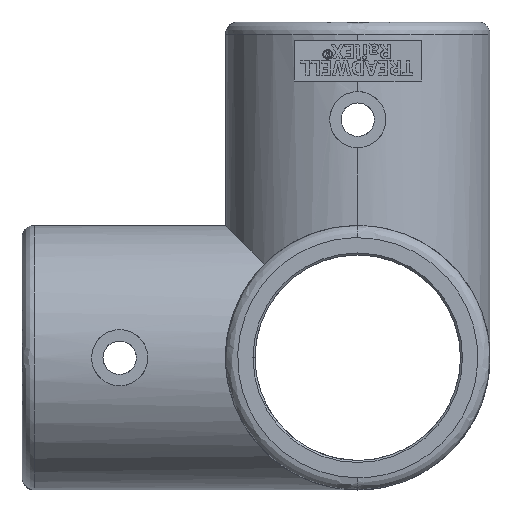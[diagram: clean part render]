
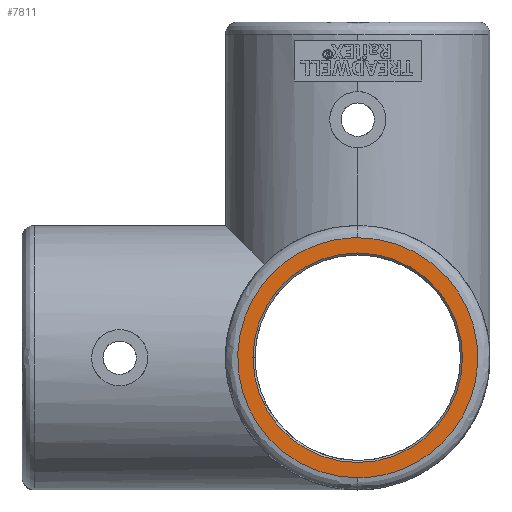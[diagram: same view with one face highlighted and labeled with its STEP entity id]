
A CAD part, left-side view. The second image highlights one B-rep face of the part: STEP entity #7811.
In plain terms, the highlighted planar face has unit normal (-1, 0, 0).
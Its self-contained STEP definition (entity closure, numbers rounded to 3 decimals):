
#119 = FACE_BOUND ( 'NONE', #1973, .T. ) ;
#266 = CIRCLE ( 'NONE', #505, 25.75 ) ;
#505 = AXIS2_PLACEMENT_3D ( 'NONE', #12575, #6741, #4759 ) ;
#904 = VERTEX_POINT ( 'NONE', #14426 ) ;
#1108 =( BOUNDED_CURVE ( )  B_SPLINE_CURVE ( 3, ( #2177, #14936, #6812, #9151 ),
 .UNSPECIFIED., .F., .F. ) 
 B_SPLINE_CURVE_WITH_KNOTS ( ( 4, 4 ),
 ( 0., 1. ),
 .UNSPECIFIED. ) 
 CURVE ( )  GEOMETRIC_REPRESENTATION_ITEM ( )  RATIONAL_B_SPLINE_CURVE ( ( 1., 0.333, 0.333, 1. ) ) 
 REPRESENTATION_ITEM ( '' )  );
#1378 = EDGE_CURVE ( 'NONE', #904, #3846, #266, .T. ) ;
#1535 = EDGE_CURVE ( 'NONE', #3846, #904, #1728, .T. ) ;
#1728 = CIRCLE ( 'NONE', #10220, 25.75 ) ;
#1973 = EDGE_LOOP ( 'NONE', ( #11190, #9516 ) ) ;
#1989 = DIRECTION ( 'NONE',  ( 0., -1., 0. ) ) ;
#2177 = CARTESIAN_POINT ( 'NONE',  ( -84.5, 0., -29.5 ) ) ;
#2272 = CARTESIAN_POINT ( 'NONE',  ( -84.5, 0., 29.5 ) ) ;
#2538 = CARTESIAN_POINT ( 'NONE',  ( -84.5, 25.75, 0. ) ) ;
#3411 = ORIENTED_EDGE ( 'NONE', *, *, #5262, .F. ) ;
#3618 = DIRECTION ( 'NONE',  ( 1., 0., 0. ) ) ;
#3768 = CARTESIAN_POINT ( 'NONE',  ( -84.5, 0., -29.5 ) ) ;
#3846 = VERTEX_POINT ( 'NONE', #2538 ) ;
#4080 = CARTESIAN_POINT ( 'NONE',  ( -84.5, 0., 29.5 ) ) ;
#4759 = DIRECTION ( 'NONE',  ( 0., -1., 0. ) ) ;
#4760 = PLANE ( 'NONE',  #12143 ) ;
#5096 =( BOUNDED_CURVE ( )  B_SPLINE_CURVE ( 3, ( #4080, #5526, #7727, #11145 ),
 .UNSPECIFIED., .F., .T. ) 
 B_SPLINE_CURVE_WITH_KNOTS ( ( 4, 4 ),
 ( 0., 1. ),
 .UNSPECIFIED. ) 
 CURVE ( )  GEOMETRIC_REPRESENTATION_ITEM ( )  RATIONAL_B_SPLINE_CURVE ( ( 1., 0.333, 0.333, 1. ) ) 
 REPRESENTATION_ITEM ( '' )  );
#5262 = EDGE_CURVE ( 'NONE', #11909, #8198, #1108, .T. ) ;
#5526 = CARTESIAN_POINT ( 'NONE',  ( -84.5, -59., 29.5 ) ) ;
#6741 = DIRECTION ( 'NONE',  ( -1., 0., 0. ) ) ;
#6812 = CARTESIAN_POINT ( 'NONE',  ( -84.5, 59., 29.5 ) ) ;
#7693 = CARTESIAN_POINT ( 'NONE',  ( -84.5, 0., 0. ) ) ;
#7727 = CARTESIAN_POINT ( 'NONE',  ( -84.5, -59., -29.5 ) ) ;
#7811 = ADVANCED_FACE ( 'NONE', ( #12948, #119 ), #4760, .F. ) ;
#8198 = VERTEX_POINT ( 'NONE', #2272 ) ;
#8248 = DIRECTION ( 'NONE',  ( 0., 0., -1. ) ) ;
#9151 = CARTESIAN_POINT ( 'NONE',  ( -84.5, 0., 29.5 ) ) ;
#9516 = ORIENTED_EDGE ( 'NONE', *, *, #1535, .F. ) ;
#10220 = AXIS2_PLACEMENT_3D ( 'NONE', #7693, #14902, #1989 ) ;
#11145 = CARTESIAN_POINT ( 'NONE',  ( -84.5, 0., -29.5 ) ) ;
#11190 = ORIENTED_EDGE ( 'NONE', *, *, #1378, .F. ) ;
#11620 = ORIENTED_EDGE ( 'NONE', *, *, #11658, .F. ) ;
#11658 = EDGE_CURVE ( 'NONE', #8198, #11909, #5096, .T. ) ;
#11909 = VERTEX_POINT ( 'NONE', #3768 ) ;
#12143 = AXIS2_PLACEMENT_3D ( 'NONE', #14022, #3618, #8248 ) ;
#12575 = CARTESIAN_POINT ( 'NONE',  ( -84.5, 0., 0. ) ) ;
#12948 = FACE_OUTER_BOUND ( 'NONE', #13332, .T. ) ;
#13332 = EDGE_LOOP ( 'NONE', ( #3411, #11620 ) ) ;
#14022 = CARTESIAN_POINT ( 'NONE',  ( -84.5, 0., 0. ) ) ;
#14426 = CARTESIAN_POINT ( 'NONE',  ( -84.5, -25.75, 0. ) ) ;
#14902 = DIRECTION ( 'NONE',  ( -1., 0., 0. ) ) ;
#14936 = CARTESIAN_POINT ( 'NONE',  ( -84.5, 59., -29.5 ) ) ;
